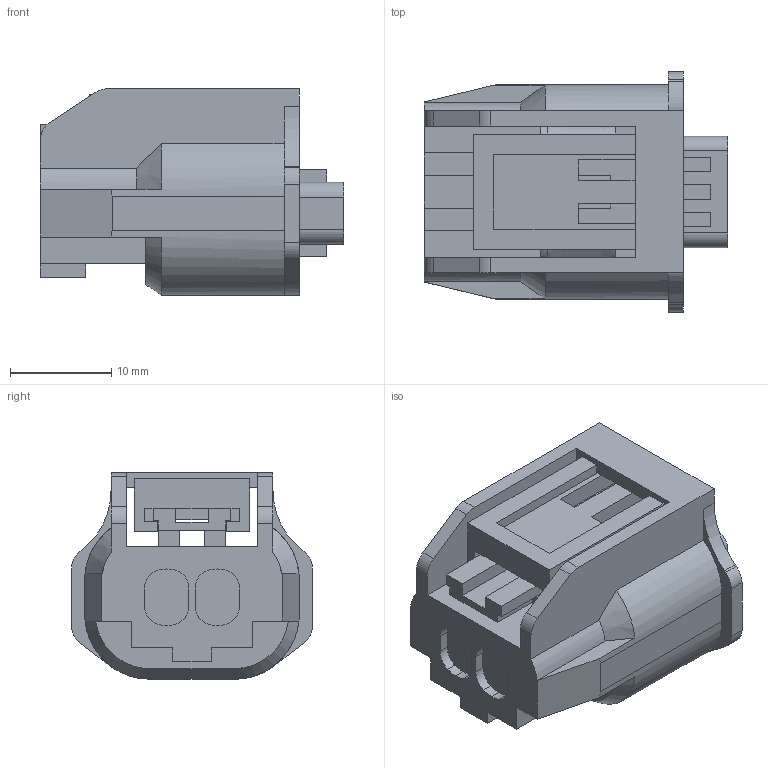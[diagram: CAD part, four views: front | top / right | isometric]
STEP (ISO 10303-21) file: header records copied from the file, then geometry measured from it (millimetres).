
FILE_DESCRIPTION(('CATIA V5 STEP Exchange','CAx-IF Rec.Pracs.--- Model Styling and Organization---1.2---2011-12-15'),'2;1');
FILE_NAME('\\Fss01.ad.sws.co.jp\fs030008\技術管理部\共通\業務\3D設計推進\カタログ用３Ｄ\仮置き\US(Sealed)\6189-7374(CPA close).stp','2016-02-18T02:14:58+00:00',('none'),('none'),'CATIA Version 5-6 Release 2013 SP5 HF43','CATIA V5 STEP AP214','none');
FILE_SCHEMA(('AUTOMOTIVE_DESIGN { 1 0 10303 214 1 1 1 1 }'));
Length unit declared in the file: millimetre
Products named in the file (1): 6189-7374
Bounding box: 30 x 23.8 x 20.4 mm (x, y, z)
Volume: 6143.9 mm3; surface area: 5412.4 mm2
Topology: 1 solids, 2 shells, 255 faces, 770 edges, 518 vertices
Faces by surface type: plane 177, cylinder 60, bspline 10, extrusion 4, cone 4
Entity records: 8739 total; most frequent: CARTESIAN_POINT 1969, ORIENTED_EDGE 1540, DIRECTION 1114, EDGE_CURVE 770, VECTOR 584, LINE 580, VERTEX_POINT 518, AXIS2_PLACEMENT_3D 324
